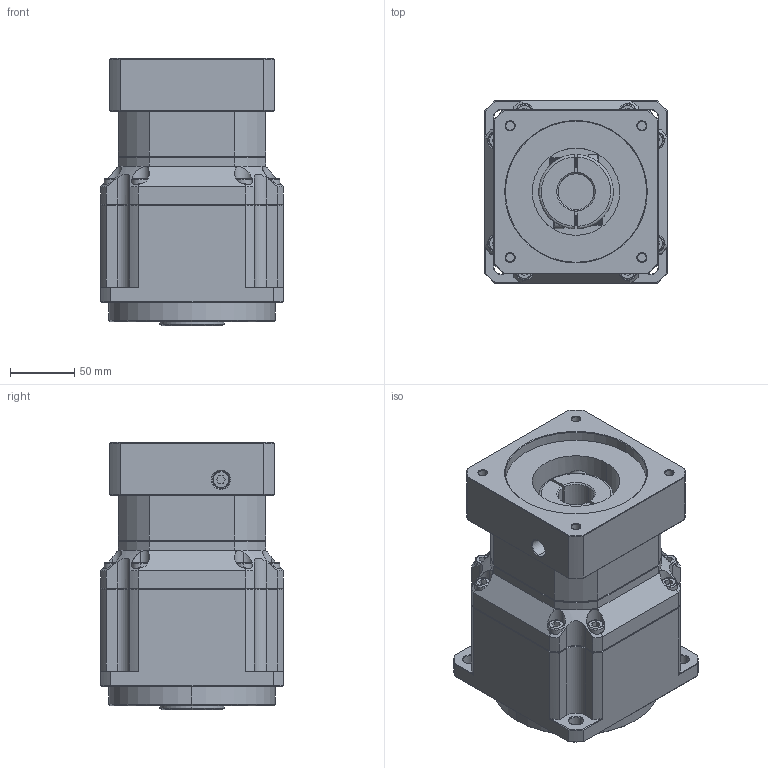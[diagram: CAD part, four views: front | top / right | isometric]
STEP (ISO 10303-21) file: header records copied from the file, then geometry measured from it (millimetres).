
FILE_DESCRIPTION (( 'STEP AP214' ), '1' );
FILE_NAME ('ZPB142-K35-L2-P1-28-110-145-M8.step', '2024-07-05T00:11:37', ( 'Windows 蚚誧' ), ( 'Organization' ), 'SwSTEP 2.0', 'SolidWorks 2016', '' );
FILE_SCHEMA (( 'AUTOMOTIVE_DESIGN' ));
Length unit declared in the file: millimetre
Products named in the file (1): ZPB142-K35-L2-P1-28-110-145-M8
Bounding box: 142 x 142 x 208 mm (x, y, z)
Surface area: 191136.7 mm2 (no closed solid volume)
Topology: 0 solids, 2 shells, 1750 faces, 4699 edges, 3048 vertices
Faces by surface type: plane 1014, bspline 390, cylinder 187, cone 159
Entity records: 87917 total; most frequent: CARTESIAN_POINT 39831, ORIENTED_EDGE 9384, DIRECTION 6906, EDGE_CURVE 4699, LINE 3158, VECTOR 3158, VERTEX_POINT 3048, AXIS2_PLACEMENT_3D 1874
